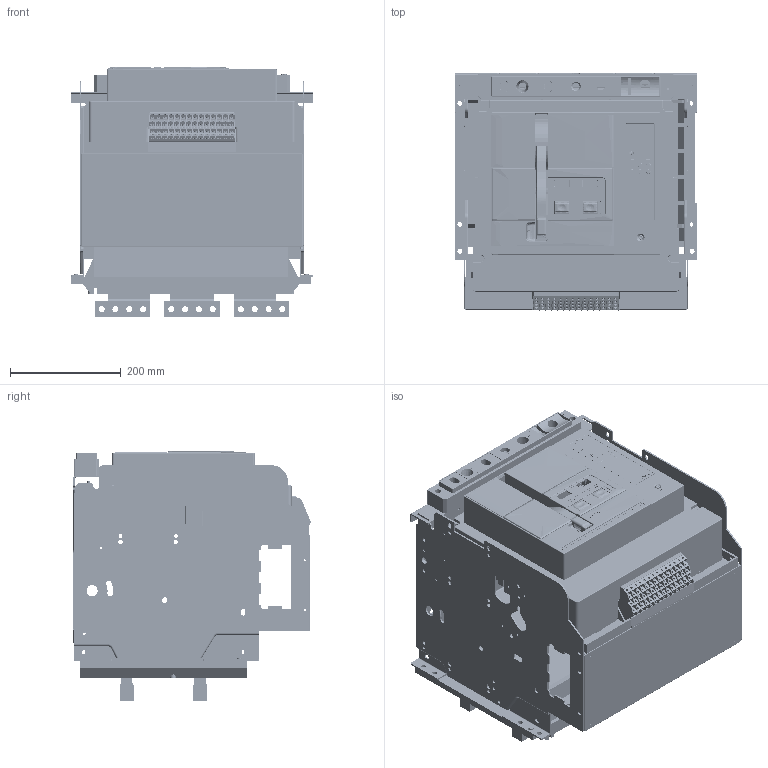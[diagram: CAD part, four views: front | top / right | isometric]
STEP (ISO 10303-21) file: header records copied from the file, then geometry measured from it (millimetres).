
FILE_DESCRIPTION((''),'2;1');
FILE_NAME('NA8-4000-4000-3P-DO_ASM','2020-03-13T11:00:41',('lcc'),(''),'CREO PARAMETRIC BY PTC INC, 2018020','CREO PARAMETRIC BY PTC INC, 2018020','');
FILE_SCHEMA(('CONFIG_CONTROL_DESIGN','SHAPE_APPEARANCE_LAYERS_GROUPS'));
Products named in the file (31): 8050A0306126; 8050A0306120; 8050A0306121; 8300A0306003; 8ZTD-300-536; 40-3P-DIBAN02; 8580A0412010; 8580A0412011; 8ZTD-060-207; 8ZTD-253-779; 8ZTD-253-780; 8ZTD-253-782; 8-040-432; 8-004-030; 8-860-KZQ; 8-320-094; 8ZTD-253-577; 8ZTD-024-837; 8ZTD-557-514; 8ZTD-557-515; 8ZTD-557-516; 8ZTD-557-517; M3_GB6170; M3X8_GB818; 8ZTD-141-185; 8ZTD-141-184; 5ZTD-558-712_ASM; 8ZTD-860-699; 8ZTD-064-136; 5ZTD-558-695-4000_ASM; NA8-4000-4000-3P-DO_ASM
Assembly tree (53 placements, depth 4):
  NA8-4000-4000-3P-DO_ASM
    8050A0306126
    8050A0306120
    8050A0306121
    8300A0306003
    8ZTD-300-536
    40-3P-DIBAN02
    8580A0412010  x2
    8580A0412011  x4
    8ZTD-060-207
    8ZTD-253-779
    8ZTD-253-780
    8ZTD-253-782
    8-040-432
    8-004-030
    8-860-KZQ
    8-320-094
    8ZTD-253-577
    5ZTD-558-695-4000_ASM
      5ZTD-558-712_ASM  x14
        8ZTD-024-837
        8ZTD-557-514
        8ZTD-557-515
        8ZTD-557-516
        8ZTD-557-517
        M3_GB6170
        M3X8_GB818
        8ZTD-141-185
        8ZTD-141-184
      8ZTD-860-699
      8ZTD-064-136
Bounding box: 439 x 429.53 x 452.18 mm (x, y, z)
Volume: 13829462.4 mm3; surface area: 3472160.4 mm2
Topology: 233 solids, 296 shells, 21973 faces, 59331 edges, 38614 vertices
Faces by surface type: plane 15307, cylinder 3965, cone 1008, bspline 934, torus 401, extrusion 222, sphere 136
Entity records: 332393 total; most frequent: CARTESIAN_POINT 68327, ORIENTED_EDGE 42070, DIRECTION 38743, EDGE_CURVE 21089, PRESENTATION_STYLE_ASSIGNMENT 18086, STYLED_ITEM 17999, VECTOR 15705, LINE 15483
